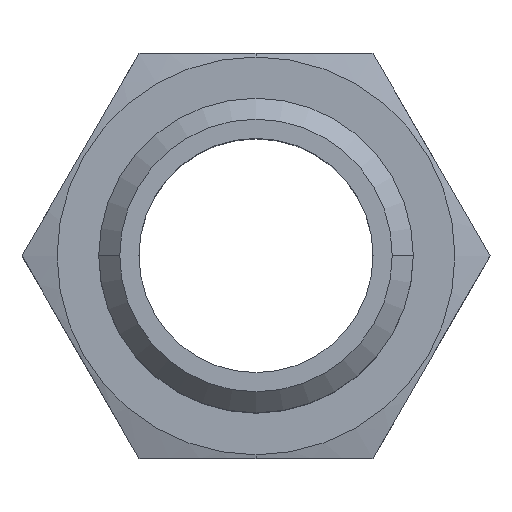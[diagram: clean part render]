
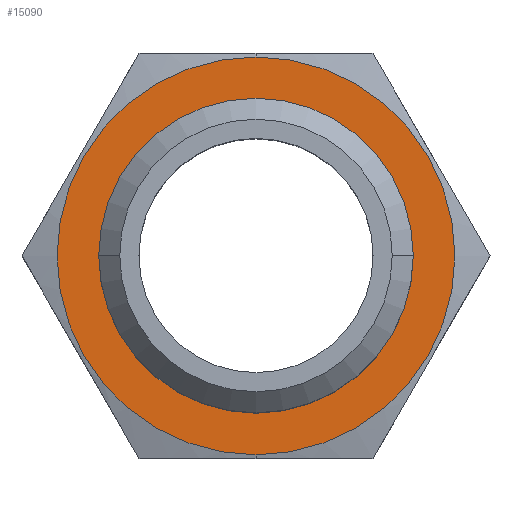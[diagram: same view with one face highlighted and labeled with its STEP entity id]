
A CAD part, top view. The second image highlights one B-rep face of the part: STEP entity #15090.
In plain terms, the highlighted planar face has unit normal (0, 0, 1).
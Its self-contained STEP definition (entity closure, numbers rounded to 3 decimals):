
#13400=CARTESIAN_POINT('',(55.667,72.057,6.8));
#13410=VERTEX_POINT('',#13400);
#13460=CARTESIAN_POINT('',(45.19,72.057,6.8));
#13470=DIRECTION('',(0.,0.,-1.));
#13480=DIRECTION('',(0.,-1.,0.));
#13490=AXIS2_PLACEMENT_3D('',#13460,#13470,#13480);
#13500=CIRCLE('',#13490,10.478);
#13510=CARTESIAN_POINT('',(45.19,61.579,6.8));
#13520=VERTEX_POINT('',#13510);
#13530=EDGE_CURVE('',#13410,#13520,#13500,.T.);
#13550=CARTESIAN_POINT('',(34.712,72.057,6.8));
#13560=VERTEX_POINT('',#13550);
#13570=EDGE_CURVE('',#13520,#13560,#13500,.T.);
#14830=CARTESIAN_POINT('',(36.751,72.057,6.8));
#14840=DIRECTION('',(0.,0.,1.));
#14850=DIRECTION('',(-1.,0.,0.));
#14860=AXIS2_PLACEMENT_3D('',#14830,#14840,#14850);
#14870=PLANE('',#14860);
#14880=CARTESIAN_POINT('',(45.19,72.057,6.8));
#14890=DIRECTION('',(0.,0.,-1.));
#14900=DIRECTION('',(0.,-1.,0.));
#14910=AXIS2_PLACEMENT_3D('',#14880,#14890,#14900);
#14920=CIRCLE('',#14910,13.25);
#14930=CARTESIAN_POINT('',(45.19,85.307,6.8));
#14940=VERTEX_POINT('',#14930);
#14950=CARTESIAN_POINT('',(45.19,58.807,6.8));
#14960=VERTEX_POINT('',#14950);
#14970=EDGE_CURVE('',#14940,#14960,#14920,.T.);
#14980=ORIENTED_EDGE('',*,*,#14970,.F.);
#14990=EDGE_CURVE('',#14960,#14940,#14920,.T.);
#15000=ORIENTED_EDGE('',*,*,#14990,.F.);
#15010=EDGE_LOOP('',(#15000,#14980));
#15020=FACE_OUTER_BOUND('',#15010,.T.);
#15030=EDGE_CURVE('',#13560,#13410,#13500,.T.);
#15040=ORIENTED_EDGE('',*,*,#15030,.T.);
#15050=ORIENTED_EDGE('',*,*,#13570,.T.);
#15060=ORIENTED_EDGE('',*,*,#13530,.T.);
#15070=EDGE_LOOP('',(#15060,#15050,#15040));
#15080=FACE_BOUND('',#15070,.T.);
#15090=ADVANCED_FACE('',(#15020,#15080),#14870,.T.);
